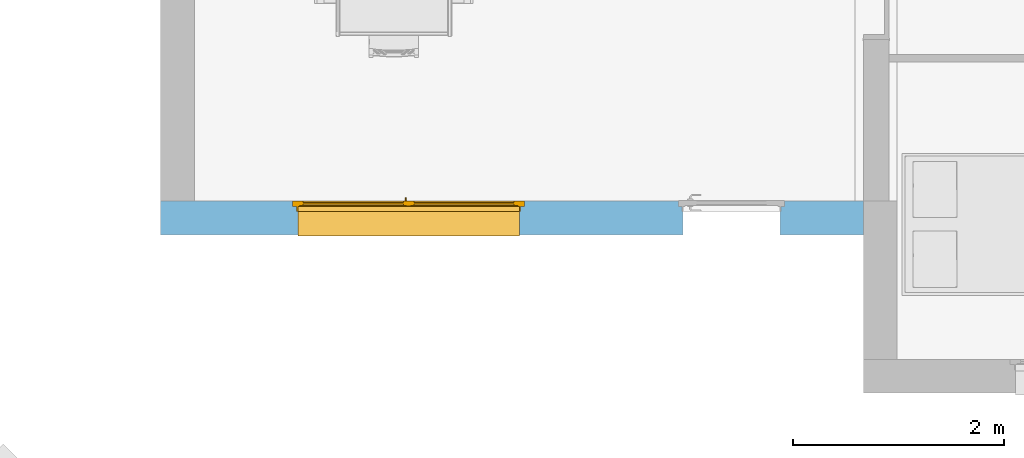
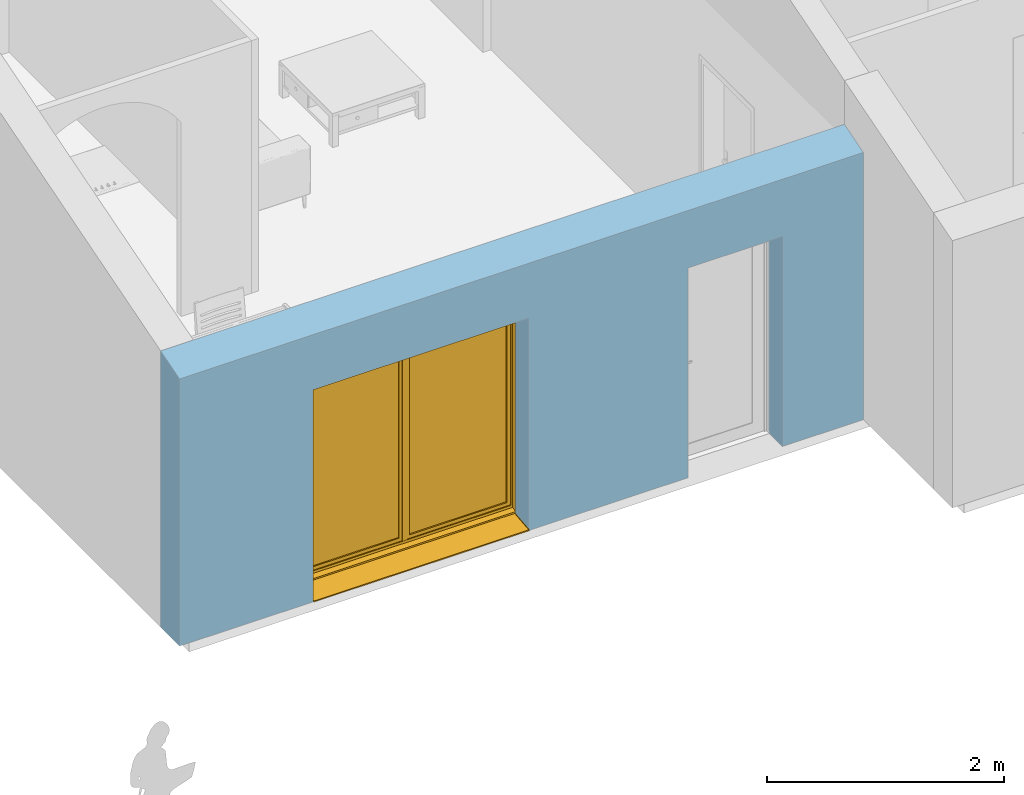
# One storey, part 7 of 18: 1 window, 2 openings, plus 1 element that does not belong to this part.
"""IFC2X3 building model written with IfcOpenShell, lengths in metres."""

from ifc_helpers import new_model, entity, si_unit, converted_unit, derived_unit, direction, frame, frame_2d, origin, place, context, subcontext, project, spatial, polyline, rectangle, extrude, clip, bounded_halfspace, faceted_brep, source, transform, mapped, material, material_list, layer, layer_set, layer_usage, type_object, type_shapes, element, fill, save


model = new_model("IFC2X3")

# Units and contexts
model_context = context("Model", 3, precision=1e-05, world=origin(), true_north=direction((6.12303176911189e-17, 1.0)))
body_context = subcontext(model_context, "Body", "Model", "MODEL_VIEW")
ifc_project = project(units=[si_unit("LENGTHUNIT", "METRE"), si_unit("AREAUNIT", "SQUARE_METRE"), si_unit("VOLUMEUNIT", "CUBIC_METRE"), converted_unit("PLANEANGLEUNIT", "DEGREE", entity("IfcRatioMeasure", 0.0174532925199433), si_unit("PLANEANGLEUNIT", "RADIAN"), dimensions=[0, 0, 0, 0, 0, 0, 0]), si_unit("MASSUNIT", "GRAM", prefix="KILO"), derived_unit("MASSDENSITYUNIT", [(si_unit("MASSUNIT", "GRAM", prefix="KILO"), 1), (si_unit("LENGTHUNIT", "METRE"), -3)]), derived_unit("MOMENTOFINERTIAUNIT", [(si_unit("LENGTHUNIT", "METRE"), 4)]), si_unit("TIMEUNIT", "SECOND"), si_unit("FREQUENCYUNIT", "HERTZ"), si_unit("THERMODYNAMICTEMPERATUREUNIT", "DEGREE_CELSIUS"), derived_unit("THERMALTRANSMITTANCEUNIT", [(si_unit("MASSUNIT", "GRAM", prefix="KILO"), 1), (si_unit("THERMODYNAMICTEMPERATUREUNIT", "KELVIN"), -1), (si_unit("TIMEUNIT", "SECOND"), -3)]), derived_unit("VOLUMETRICFLOWRATEUNIT", [(si_unit("LENGTHUNIT", "METRE"), 3), (si_unit("TIMEUNIT", "SECOND"), -1)]), si_unit("ELECTRICCURRENTUNIT", "AMPERE"), si_unit("ELECTRICVOLTAGEUNIT", "VOLT"), si_unit("POWERUNIT", "WATT"), si_unit("FORCEUNIT", "NEWTON", prefix="KILO"), si_unit("ILLUMINANCEUNIT", "LUX"), si_unit("LUMINOUSFLUXUNIT", "LUMEN"), si_unit("LUMINOUSINTENSITYUNIT", "CANDELA"), derived_unit("USERDEFINED", [(si_unit("MASSUNIT", "GRAM", prefix="KILO"), -1), (si_unit("LENGTHUNIT", "METRE"), -2), (si_unit("TIMEUNIT", "SECOND"), 3), (si_unit("LUMINOUSFLUXUNIT", "LUMEN"), 1)]), derived_unit("LINEARVELOCITYUNIT", [(si_unit("LENGTHUNIT", "METRE"), 1), (si_unit("TIMEUNIT", "SECOND"), -1)]), si_unit("PRESSUREUNIT", "PASCAL"), derived_unit("USERDEFINED", [(si_unit("LENGTHUNIT", "METRE"), -2), (si_unit("MASSUNIT", "GRAM", prefix="KILO"), 1), (si_unit("TIMEUNIT", "SECOND"), -2)]), derived_unit("LINEARFORCEUNIT", [(si_unit("MASSUNIT", "GRAM", prefix="KILO"), 1), (si_unit("LENGTHUNIT", "METRE"), 1), (si_unit("TIMEUNIT", "SECOND"), -2), (si_unit("LENGTHUNIT", "METRE"), -1)]), derived_unit("PLANARFORCEUNIT", [(si_unit("MASSUNIT", "GRAM", prefix="KILO"), 1), (si_unit("LENGTHUNIT", "METRE"), 1), (si_unit("TIMEUNIT", "SECOND"), -2), (si_unit("LENGTHUNIT", "METRE"), -2)])], contexts=[model_context])

# Site, building, storey
site_placement = place(None, origin())
site = spatial("IfcSite", under=ifc_project, at=site_placement, Name="Surface", CompositionType="ELEMENT")
building_placement = place(site_placement, origin())
building = spatial("IfcBuilding", under=site, at=building_placement, CompositionType="ELEMENT")
storey_placement = place(building_placement, origin())
storey = spatial("IfcBuildingStorey", under=building, at=storey_placement, Name="RDC", CompositionType="ELEMENT", Elevation=-1.94916083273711e-14)

# Wall, openings, window
ifc_material_1 = material(Name="Maçonnerie - Enduit")
ifc_layer_1 = layer(ifc_material_1, 0.02)
ifc_material_2 = material(Name="Blocs béton manufacturés")
ifc_layer_2 = layer(ifc_material_2, 0.2)
ifc_material_3 = material(Name="Maçonnerie - Isolant")
ifc_layer_3 = layer(ifc_material_3, 0.1)
ifc_layer_set = layer_set([ifc_layer_1, ifc_layer_2, ifc_layer_3], Name="Mur de base:Ext. Parpaing 20 + Isolant 10")
ifc_layer_usage = layer_usage(ifc_layer_set, "AXIS2", "NEGATIVE", 0.16)
wall_type = type_object("IfcWallType", Name="Mur de base:Ext. Parpaing 20 + Isolant 10", PredefinedType="STANDARD", material=ifc_layer_set)
wall_placement = place(storey_placement, frame((-11.3482926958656, 0.547379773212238, 0.0), z_axis=(0.0, 0.0, 1.0), x_axis=(-1.0, 0.0, 0.0)))
wall = element("IfcWallStandardCase", 1, at=wall_placement, inside=storey, type_object=wall_type, material=ifc_layer_usage, Name="Mur de base:Ext. Parpaing 20 + Isolant 10", ObjectType="Mur de base:Ext. Parpaing 20 + Isolant 10", context=body_context, shape_type="Clipping", body=[
    clip(extrude(rectangle(XDim=6.66, YDim=0.32, at=frame_2d((3.33, 0.0), x_axis=(-1.0, 0.0))), origin(), (0.0, 0.0, 1.0), 2.84600000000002), bounded_halfspace(frame((0.0, -0.16, 2.84600000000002), z_axis=(0.0, 0.287347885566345, 0.957826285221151), x_axis=(-1.0, 0.0, 0.0)), False, frame((0.0, -0.16, 2.84600000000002)), polyline([(0.0, 0.0), (6.33999999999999, 0.0), (6.66, 0.0), (6.66, 0.32), (0.0, 0.32), (0.0, 0.0)]))),
])
opening_1_placement = place(wall_placement, frame((1.74999999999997, 0.460000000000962, 0.0), z_axis=(0.0, 0.0, 1.0), x_axis=(-1.0, 0.0, 0.0)))
element("IfcOpeningElement", 2, at=opening_1_placement, cuts=wall, Name="Mur de base:Ext. Parpaing 20 + Isolant 10", ObjectType="Opening", context=body_context, shape_type="Brep", body=[
    faceted_brep([(0.960000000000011, 0.920000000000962, 2.15999999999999), (0.0400000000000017, 0.920000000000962, 2.15999999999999), (0.0400000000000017, 0.628000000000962, 2.15999999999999), (0.960000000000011, 0.628000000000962, 2.15999999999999), (0.960000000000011, 0.0, 0.0), (0.0400000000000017, 0.0, 0.0), (0.0400000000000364, 0.520000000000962, 0.0), (0.0300000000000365, 0.520000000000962, 0.0), (0.0300000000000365, 0.568000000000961, 0.0), (0.0, 0.568000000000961, 0.0), (0.0, 0.628000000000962, 0.0), (0.0400000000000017, 0.628000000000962, 0.0), (0.0400000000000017, 0.920000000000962, 0.0), (0.960000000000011, 0.920000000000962, 0.0), (0.959999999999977, 0.628000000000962, 0.0), (1.0, 0.628000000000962, 0.0), (1.0, 0.568000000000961, 0.0), (0.969999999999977, 0.568000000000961, 0.0), (0.969999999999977, 0.520000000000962, 0.0), (0.960000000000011, 0.520000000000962, 0.0), (0.960000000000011, 0.0, 2.15999999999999), (0.0400000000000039, 0.0, 2.15999999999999), (0.0400000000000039, 0.520000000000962, 2.15999999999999), (0.0300000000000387, 0.568000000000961, 2.16999999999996), (0.969999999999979, 0.568000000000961, 2.16999999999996), (1.0, 0.568000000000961, 2.2), (0.0, 0.568000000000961, 2.2), (0.0300000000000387, 0.520000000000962, 2.16999999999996), (0.960000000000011, 0.520000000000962, 2.15999999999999), (0.969999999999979, 0.520000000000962, 2.16999999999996), (0.0, 0.628000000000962, 2.2), (1.0, 0.628000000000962, 2.2)], [[[0, 1, 2, 3]], [[4, 5, 6, 7, 8, 9, 10, 11, 12, 13, 14, 15, 16, 17, 18, 19]], [[13, 0, 3, 14]], [[20, 21, 5, 4]], [[5, 21, 22, 6]], [[1, 0, 13, 12]], [[9, 8, 23, 24, 17, 16, 25, 26]], [[8, 7, 27, 23]], [[7, 6, 22, 28, 19, 18, 29, 27]], [[11, 10, 30, 31, 15, 14, 3, 2]], [[10, 9, 26, 30]], [[24, 23, 27, 29]], [[26, 25, 31, 30]], [[17, 24, 29, 18]], [[25, 16, 15, 31]], [[1, 12, 11, 2]], [[20, 4, 19, 28]], [[21, 20, 28, 22]]]),
])
opening_2_placement = place(wall_placement, frame((5.41, 0.500000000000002, 0.0), z_axis=(0.0, 0.0, 1.0), x_axis=(-1.0, 0.0, 0.0)))
opening_2 = element("IfcOpeningElement", 3, at=opening_2_placement, cuts=wall, Name="Mur de base:Ext. Parpaing 20 + Isolant 10", ObjectType="Opening", context=body_context, shape_type="Brep", body=[
    faceted_brep([(2.15, 0.579999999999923, 0.0350000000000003), (2.15, 0.559999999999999, 0.0350000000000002), (2.15, 0.559999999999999, 2.185), (2.15, 0.0, 2.185), (2.15, 0.0, 0.0), (2.15, 0.246997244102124, 0.0), (0.0499999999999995, 1.0, 0.0350000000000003), (0.0499999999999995, 0.660000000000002, 0.0350000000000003), (0.0499999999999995, 0.660000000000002, 2.185), (0.0499999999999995, 1.0, 2.185), (2.15, 1.0, 0.0350000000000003), (2.15, 0.660000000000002, 0.0350000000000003), (2.2, 0.660000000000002, 0.0350000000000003), (2.2, 0.610000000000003, 0.0350000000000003), (2.16, 0.610000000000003, 0.0350000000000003), (2.16, 0.559999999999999, 0.0350000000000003), (0.0499999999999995, 0.579999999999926, 0.035), (0.0499999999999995, 0.559999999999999, 0.0350000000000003), (0.0399999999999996, 0.559999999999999, 0.0350000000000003), (0.0399999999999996, 0.610000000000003, 0.0350000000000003), (0.0, 0.610000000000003, 0.0350000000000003), (0.0, 0.660000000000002, 0.0350000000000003), (2.15, 1.0, 2.185), (0.0499999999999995, 0.56, 2.185), (0.0499999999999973, 0.0, 2.185), (0.0499999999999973, 0.0, 0.0), (0.0499999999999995, 0.246997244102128, 0.0), (2.2, 0.660000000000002, 2.235), (2.2, 0.610000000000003, 2.235), (0.0, 0.610000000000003, 2.235), (0.0399999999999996, 0.610000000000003, 2.195), (2.16, 0.610000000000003, 2.195), (2.16, 0.559999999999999, 2.195), (0.0399999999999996, 0.559999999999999, 2.195), (2.15, 0.660000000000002, 2.185), (0.0, 0.660000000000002, 2.235)], [[[0, 1, 2, 3, 4, 5]], [[6, 7, 8, 9]], [[10, 11, 12, 13, 14, 15, 1, 0, 16, 17, 18, 19, 20, 21, 7, 6]], [[10, 6, 9, 22]], [[3, 2, 23, 24]], [[3, 24, 25, 4]], [[4, 25, 26, 5]], [[5, 26, 16, 0]], [[12, 27, 28, 13]], [[13, 28, 29, 20, 19, 30, 31, 14]], [[14, 31, 32, 15]], [[15, 32, 33, 18, 17, 23, 2, 1]], [[11, 34, 8, 7, 21, 35, 27, 12]], [[27, 35, 29, 28]], [[30, 33, 32, 31]], [[29, 35, 21, 20]], [[19, 18, 33, 30]], [[9, 8, 34, 22]], [[24, 23, 17, 16, 26, 25]], [[22, 34, 11, 10]]]),
])
ifc_material_4 = material(Name="Fenêtre - Poignée")
ifc_material_5 = material(Name="Fenêtre - Appui")
ifc_material_6 = material(Name="Fenêtre - Cadre")
ifc_material_7 = material(Name="Fenêtre - Vitrage")
ifc_material_list_1 = material_list([ifc_material_4, ifc_material_5, ifc_material_6, ifc_material_7])
ifc_material_list_2 = material_list([ifc_material_6, ifc_material_5, ifc_material_6, ifc_material_4, ifc_material_7])
window_style = type_object("IfcWindowStyle", Name="PF 2 Vantaux - Droits:2.10 x 2.15", ConstructionType="NOTDEFINED", OperationType="DOUBLE_PANEL_VERTICAL", ParameterTakesPrecedence=False, Sizeable=False, material=ifc_material_list_2)
shared_shape = source(origin(), body_context, "Body", "Brep", [
    faceted_brep([(1.13064600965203, -0.666000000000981, 1.12203392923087), (1.13203392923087, -0.666000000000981, 1.12064600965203), (1.13203392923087, -0.666000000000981, 1.10933230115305), (1.13066769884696, -0.666000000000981, 1.10796607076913), (1.11933230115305, -0.666000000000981, 1.10796607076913), (1.11796607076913, -0.666000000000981, 1.10933230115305), (1.11796607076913, -0.666000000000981, 1.12064600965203), (1.11935399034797, -0.666000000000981, 1.12203392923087), (1.13064600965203, -0.67891354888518, 1.12203392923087), (1.13203392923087, -0.678338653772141, 1.12064600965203), (1.13203392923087, -0.691646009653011, 1.10733865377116), (1.13203392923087, -0.691646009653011, 1.02), (1.13203392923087, -0.680332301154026, 1.02), (1.13203392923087, -0.680332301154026, 1.10265236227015), (1.13203392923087, -0.673652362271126, 1.10933230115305), (1.13066769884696, -0.673086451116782, 1.10796607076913), (1.11933230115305, -0.673086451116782, 1.10796607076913), (1.11796607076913, -0.673652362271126, 1.10933230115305), (1.11796607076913, -0.680332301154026, 1.10265236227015), (1.11796607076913, -0.680332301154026, 1.02), (1.11796607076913, -0.691646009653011, 1.02), (1.11796607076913, -0.691646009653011, 1.10733865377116), (1.11796607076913, -0.678338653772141, 1.12064600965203), (1.11935399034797, -0.67891354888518, 1.12203392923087), (1.13064600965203, -0.693033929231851, 1.1079135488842), (1.13066769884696, -0.678966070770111, 1.1020864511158), (1.11933230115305, -0.678966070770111, 1.1020864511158), (1.11935399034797, -0.693033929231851, 1.1079135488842), (1.13064600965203, -0.693033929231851, 1.02), (1.11935399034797, -0.693033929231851, 1.02), (1.11933230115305, -0.67896607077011, 1.02), (1.13066769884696, -0.67896607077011, 1.02)], [[[0, 1, 2, 3, 4, 5, 6, 7]], [[1, 0, 8, 9]], [[2, 1, 9, 10, 11, 12, 13, 14]], [[3, 2, 14, 15]], [[4, 3, 15, 16]], [[5, 4, 16, 17]], [[6, 5, 17, 18, 19, 20, 21, 22]], [[7, 6, 22, 23]], [[0, 7, 23, 8]], [[9, 8, 24, 10]], [[15, 14, 13, 25]], [[16, 15, 25, 26]], [[17, 16, 26, 18]], [[23, 22, 21, 27]], [[8, 23, 27, 24]], [[28, 29, 20, 19, 30, 31, 12, 11]], [[10, 24, 28, 11]], [[25, 13, 12, 31]], [[26, 25, 31, 30]], [[18, 26, 30, 19]], [[27, 21, 20, 29]], [[24, 27, 29, 28]]]),
    faceted_brep([(1.13200000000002, -0.666000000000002, 1.14), (1.118, -0.666000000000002, 1.14), (1.113, -0.666000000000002, 1.135), (1.113, -0.666000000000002, 1.06499999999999), (1.11799999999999, -0.666000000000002, 1.06), (1.13200000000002, -0.666000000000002, 1.06), (1.137, -0.666000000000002, 1.06499999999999), (1.137, -0.666000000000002, 1.135), (1.13200000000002, -0.660000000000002, 1.14), (1.137, -0.660000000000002, 1.135), (1.137, -0.660000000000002, 1.06499999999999), (1.13200000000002, -0.660000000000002, 1.06), (1.11799999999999, -0.660000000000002, 1.06), (1.113, -0.660000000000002, 1.06499999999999), (1.113, -0.660000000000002, 1.135), (1.118, -0.660000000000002, 1.14)], [[[0, 1, 2, 3, 4, 5, 6, 7]], [[8, 9, 10, 11, 12, 13, 14, 15]], [[1, 0, 8, 15]], [[2, 1, 15, 14]], [[3, 2, 14, 13]], [[4, 3, 13, 12]], [[5, 4, 12, 11]], [[6, 5, 11, 10]], [[7, 6, 10, 9]], [[0, 7, 9, 8]]]),
    faceted_brep([(2.15, -0.329971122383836, 0.0139761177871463), (2.15, -0.574999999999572, 0.0397296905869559), (2.15, -0.574999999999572, 0.0499999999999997), (2.15, -0.579999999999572, 0.0499999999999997), (2.15, -0.579999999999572, 0.0349999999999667), (2.15, -0.334971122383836, 0.00924642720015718), (2.15, -0.334971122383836, 0.00342343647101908), (2.15, -0.329971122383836, 0.00289791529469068), (0.0499999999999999, -0.329971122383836, 0.0139761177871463), (0.0499999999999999, -0.329971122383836, 0.00289791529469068), (0.0499999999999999, -0.334971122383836, 0.00342343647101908), (0.0499999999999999, -0.334971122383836, 0.00924642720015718), (0.0499999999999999, -0.579999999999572, 0.0349999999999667), (0.0499999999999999, -0.579999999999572, 0.0499999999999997), (0.0499999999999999, -0.574999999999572, 0.0499999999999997), (0.0499999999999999, -0.574999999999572, 0.0397296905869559)], [[[0, 1, 2, 3, 4, 5, 6, 7]], [[8, 9, 10, 11, 12, 13, 14, 15]], [[1, 0, 8, 15]], [[2, 1, 15, 14]], [[3, 2, 14, 13]], [[4, 3, 13, 12]], [[5, 4, 12, 11]], [[6, 5, 11, 10]], [[7, 6, 10, 9]], [[0, 7, 9, 8]]]),
    faceted_brep([(0.0500000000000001, -0.329971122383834, 0.0154020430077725), (0.0500000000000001, -0.329971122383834, 0.0139761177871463), (0.0499999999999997, -0.574999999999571, 0.0397296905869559), (0.0499999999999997, -0.574999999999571, 0.0447572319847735), (0.0500000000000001, -0.333553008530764, 0.0193801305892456), (0.0500000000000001, -0.330998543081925, 0.0180785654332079), (0.0549999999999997, -0.574999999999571, 0.0447572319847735), (0.0549999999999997, -0.574999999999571, 0.0397296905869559), (0.0550000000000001, -0.329971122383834, 0.0139761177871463), (0.0550000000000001, -0.329971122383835, 0.0154020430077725), (0.0550000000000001, -0.330998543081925, 0.0180785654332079), (0.0550000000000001, -0.333553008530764, 0.0193801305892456)], [[[0, 1, 2, 3, 4, 5]], [[6, 7, 8, 9, 10, 11]], [[2, 1, 8, 7]], [[3, 2, 7, 6]], [[4, 3, 6, 11]], [[4, 11, 10, 5]], [[10, 9, 0, 5]], [[1, 0, 9, 8]]]),
    faceted_brep([(2.145, -0.329971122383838, 0.0154020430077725), (2.145, -0.329971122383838, 0.0139761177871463), (2.145, -0.574999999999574, 0.0397296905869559), (2.145, -0.574999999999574, 0.0447572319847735), (2.145, -0.333553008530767, 0.0193801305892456), (2.145, -0.330998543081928, 0.018078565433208), (2.15, -0.574999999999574, 0.0447572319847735), (2.15, -0.574999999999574, 0.0397296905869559), (2.15, -0.329971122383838, 0.0139761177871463), (2.15, -0.329971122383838, 0.0154020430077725), (2.15, -0.330998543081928, 0.018078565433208), (2.15, -0.333553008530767, 0.0193801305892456)], [[[0, 1, 2, 3, 4, 5]], [[6, 7, 8, 9, 10, 11]], [[2, 1, 8, 7]], [[3, 2, 7, 6]], [[4, 3, 6, 11]], [[4, 11, 10, 5]], [[10, 9, 0, 5]], [[1, 0, 9, 8]]]),
    faceted_brep([(1.1, -0.619999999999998, 2.185), (1.1, -0.659999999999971, 2.185), (1.1, -0.659999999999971, 0.0849999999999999), (1.1, -0.619999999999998, 0.0850000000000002), (0.0499999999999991, -0.659999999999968, 0.085), (0.0499999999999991, -0.619999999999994, 0.0849999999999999), (0.0499999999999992, -0.659999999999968, 2.185), (0.0999999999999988, -0.659999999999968, 0.135), (0.0999999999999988, -0.659999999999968, 2.135), (1.05, -0.659999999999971, 2.135), (1.05, -0.659999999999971, 0.135), (0.0499999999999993, -0.619999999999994, 2.185), (1.05, -0.619999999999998, 0.135), (1.05, -0.619999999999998, 2.135), (0.0999999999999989, -0.619999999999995, 2.135), (0.0999999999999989, -0.619999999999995, 0.135)], [[[0, 1, 2, 3]], [[3, 2, 4, 5]], [[2, 1, 6, 4], [7, 8, 9, 10]], [[5, 4, 6, 11]], [[5, 11, 0, 3], [12, 13, 14, 15]], [[9, 13, 12, 10]], [[10, 12, 15, 7]], [[7, 15, 14, 8]], [[11, 6, 1, 0]], [[8, 14, 13, 9]]]),
    faceted_brep([(1.15, -0.634000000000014, 0.135), (1.15, -0.634000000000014, 2.135), (2.1, -0.634000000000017, 2.135), (2.1, -0.634000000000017, 0.135), (1.15, -0.646000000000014, 0.135), (1.15, -0.646000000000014, 2.135), (2.1, -0.646000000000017, 2.135), (2.1, -0.646000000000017, 0.135)], [[[0, 1, 2, 3]], [[1, 0, 4, 5]], [[3, 2, 6, 7]], [[0, 3, 7, 4]], [[2, 1, 5, 6]], [[4, 7, 6, 5]]]),
    faceted_brep([(1.05, -0.634000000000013, 0.135), (1.05, -0.634000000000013, 2.135), (1.05, -0.646000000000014, 2.135), (1.05, -0.646000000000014, 0.135), (0.0999999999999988, -0.63400000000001, 0.135), (0.0999999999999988, -0.64600000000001, 0.135), (0.0999999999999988, -0.63400000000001, 2.135), (0.0999999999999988, -0.64600000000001, 2.135)], [[[0, 1, 2, 3]], [[4, 0, 3, 5]], [[6, 4, 5, 7]], [[7, 5, 3, 2]], [[1, 6, 7, 2]], [[6, 1, 0, 4]]]),
    faceted_brep([(1.15, -0.620000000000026, 2.135), (1.15, -0.660000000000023, 2.135), (1.15, -0.660000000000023, 0.135), (1.15, -0.620000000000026, 0.135), (2.1, -0.660000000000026, 0.135000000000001), (2.1, -0.620000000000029, 0.135), (2.1, -0.660000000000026, 2.135), (2.15, -0.660000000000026, 0.085000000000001), (2.15, -0.660000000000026, 2.185), (1.1, -0.660000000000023, 2.185), (1.1, -0.660000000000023, 0.085000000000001), (2.1, -0.620000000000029, 2.135), (1.1, -0.620000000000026, 0.085000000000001), (1.1, -0.620000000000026, 2.185), (2.15, -0.620000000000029, 2.185), (2.15, -0.620000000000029, 0.085000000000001)], [[[0, 1, 2, 3]], [[3, 2, 4, 5]], [[2, 1, 6, 4], [7, 8, 9, 10]], [[5, 4, 6, 11]], [[5, 11, 0, 3], [12, 13, 14, 15]], [[9, 13, 12, 10]], [[10, 12, 15, 7]], [[7, 15, 14, 8]], [[11, 6, 1, 0]], [[8, 14, 13, 9]]], outer=[[True], [True], [False, True], [True], [False, True], [True], [True], [True], [True], [True]]),
    faceted_brep([(0.0, -0.660000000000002, 0.0350000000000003), (0.0, -0.610000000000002, 0.0350000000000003), (0.0500000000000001, -0.610000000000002, 0.0350000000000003), (0.0500000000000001, -0.580000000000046, 0.0350000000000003), (2.15, -0.580000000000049, 0.0350000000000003), (2.15, -0.610000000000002, 0.0350000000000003), (2.2, -0.610000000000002, 0.0350000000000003), (2.2, -0.660000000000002, 0.0350000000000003), (0.0, -0.660000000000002, 2.235), (0.0, -0.610000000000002, 2.235), (2.2, -0.610000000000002, 2.235), (2.15, -0.610000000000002, 0.074376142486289), (0.0500000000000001, -0.610000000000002, 0.0743761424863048), (0.0649999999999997, -0.610000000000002, 2.17), (0.0649999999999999, -0.610000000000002, 0.0999999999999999), (2.135, -0.610000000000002, 0.0999999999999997), (2.135, -0.610000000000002, 2.17), (0.0500000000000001, -0.560000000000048, 0.060978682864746), (0.0500000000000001, -0.560000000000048, 0.0450000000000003), (0.0500000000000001, -0.570000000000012, 0.0450000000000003), (0.0500000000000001, -0.570000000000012, 0.050000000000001), (0.0500000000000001, -0.580000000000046, 0.050000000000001), (2.15, -0.580000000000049, 0.050000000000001), (2.15, -0.570000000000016, 0.050000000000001), (2.15, -0.570000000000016, 0.0450000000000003), (2.15, -0.560000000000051, 0.0450000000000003), (2.15, -0.560000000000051, 0.060978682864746), (2.2, -0.660000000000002, 2.235), (2.15, -0.660000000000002, 2.185), (2.15, -0.660000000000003, 0.0850000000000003), (0.0499999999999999, -0.660000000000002, 0.0850000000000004), (0.0499999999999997, -0.660000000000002, 2.185), (0.0649999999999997, -0.620000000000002, 2.17), (0.0649999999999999, -0.620000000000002, 0.0999999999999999), (2.135, -0.620000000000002, 0.1), (2.135, -0.620000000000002, 2.17), (2.15, -0.620000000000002, 2.185), (0.0499999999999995, -0.620000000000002, 2.185), (0.0499999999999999, -0.620000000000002, 0.0850000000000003), (2.15, -0.620000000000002, 0.0850000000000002)], [[[0, 1, 2, 3, 4, 5, 6, 7]], [[1, 0, 8, 9]], [[1, 9, 10, 6, 5, 11, 12, 2], [13, 14, 15, 16]], [[12, 17, 18, 19, 20, 21, 3, 2]], [[3, 21, 22, 4]], [[4, 22, 23, 24, 25, 26, 11, 5]], [[6, 10, 27, 7]], [[0, 7, 27, 8], [28, 29, 30, 31]], [[13, 32, 33, 14]], [[33, 34, 15, 14]], [[35, 16, 15, 34]], [[17, 12, 11, 26]], [[36, 37, 38, 39], [32, 35, 34, 33]], [[38, 37, 31, 30]], [[30, 29, 39, 38]], [[28, 36, 39, 29]], [[18, 17, 26, 25]], [[19, 18, 25, 24]], [[20, 19, 24, 23]], [[21, 20, 23, 22]], [[13, 16, 35, 32]], [[37, 36, 28, 31]], [[10, 9, 8, 27]]]),
    faceted_brep([(0.0499999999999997, -0.56, 0.0350000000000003), (0.0499999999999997, -0.610000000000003, 0.0350000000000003), (0.0399999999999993, -0.610000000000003, 0.0350000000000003), (0.0399999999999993, -0.56, 0.0350000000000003), (0.0499999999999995, -0.56, 2.185), (0.0499999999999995, -0.610000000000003, 2.185), (2.15, -0.610000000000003, 2.185), (2.15, -0.610000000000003, 0.035), (2.16, -0.610000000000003, 0.0350000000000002), (2.16, -0.610000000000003, 2.195), (0.0399999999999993, -0.610000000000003, 2.195), (0.0399999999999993, -0.56, 2.195), (2.16, -0.56, 2.195), (2.16, -0.56, 0.035), (2.15, -0.56, 0.0350000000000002), (2.15, -0.56, 2.185)], [[[0, 1, 2, 3]], [[1, 0, 4, 5]], [[2, 1, 5, 6, 7, 8, 9, 10]], [[3, 2, 10, 11]], [[0, 3, 11, 12, 13, 14, 15, 4]], [[6, 15, 14, 7]], [[14, 13, 8, 7]], [[12, 9, 8, 13]], [[5, 4, 15, 6]], [[11, 10, 9, 12]]]),
    faceted_brep([(1.12, -0.612000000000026, 2.17), (1.08, -0.612000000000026, 2.17), (1.08, -0.620000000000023, 2.17), (1.12, -0.620000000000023, 2.17), (1.12, -0.612000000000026, 0.0999999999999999), (1.12, -0.620000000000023, 0.0999999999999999), (1.08, -0.620000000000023, 0.0999999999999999), (1.08, -0.612000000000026, 0.0999999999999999)], [[[0, 1, 2, 3]], [[4, 5, 6, 7]], [[1, 0, 4, 7]], [[2, 1, 7, 6]], [[3, 2, 6, 5]], [[0, 3, 5, 4]]]),
])
type_shapes(window_style, [shared_shape])
window_placement = place(opening_2_placement, frame((2.2, 0.0, 0.0), z_axis=(0.0, 0.0, 1.0), x_axis=(-1.0, 0.0, 0.0)))
window = element("IfcWindow", 4, at=window_placement, inside=storey, type_object=window_style, material=ifc_material_list_1, Name="PF 2 Vantaux - Droits:2.10 x 2.15", ObjectType="PF 2 Vantaux - Droits:2.10 x 2.15", OverallHeight=2.265, OverallWidth=2.2, context=body_context, shape_type="MappedRepresentation", body=[
    mapped(shared_shape, transform((0.0, 0.0, 0.0), scale=1.0)),
])
fill(opening_2, window)

save(model, "model.ifc")
